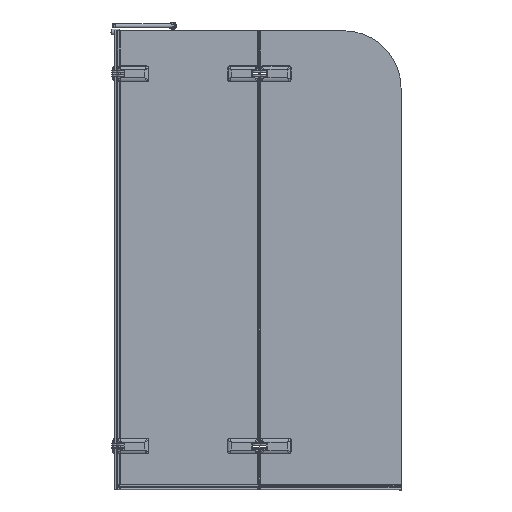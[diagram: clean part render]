
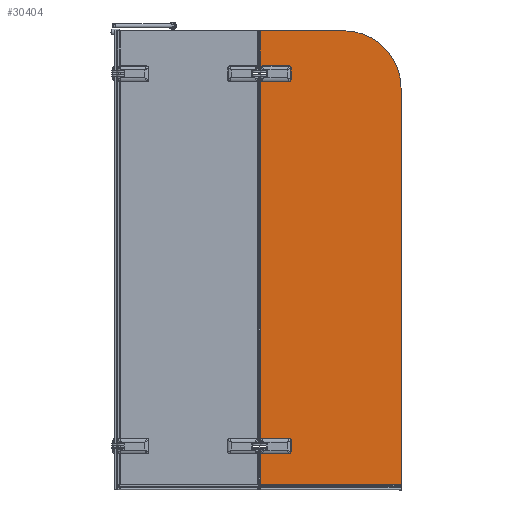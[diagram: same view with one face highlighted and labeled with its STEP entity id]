
A CAD part, front view. The second image highlights one B-rep face of the part: STEP entity #30404.
In plain terms, the highlighted planar face has unit normal (0, -1, 0).
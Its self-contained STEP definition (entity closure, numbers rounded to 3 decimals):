
#1670=CIRCLE($,#32733,5.);
#1674=CIRCLE($,#32742,5.);
#1675=CIRCLE($,#32743,5.);
#1676=CIRCLE($,#32744,5.);
#1677=CIRCLE($,#32745,5.);
#1678=CIRCLE($,#32746,200.);
#1679=CIRCLE($,#32747,5.);
#1680=CIRCLE($,#32748,5.);
#1681=CIRCLE($,#32749,5.);
#3068=FACE_OUTER_BOUND($,#4650,.T.);
#4650=EDGE_LOOP($,(#24165,#24166,#24167,#24168,#24169,#24170,#24171,#24172,
#24173,#24174,#24175,#24176,#24177,#24178,#24179,#24180,#24181,#24182,#24183,
#24184,#24185));
#6898=LINE($,#49764,#9901);
#7206=LINE($,#50932,#10209);
#7271=LINE($,#51149,#10274);
#7272=LINE($,#51153,#10275);
#7273=LINE($,#51157,#10276);
#7274=LINE($,#51161,#10277);
#7275=LINE($,#51163,#10278);
#7276=LINE($,#51165,#10279);
#7277=LINE($,#51168,#10280);
#7278=LINE($,#51172,#10281);
#7279=LINE($,#51176,#10282);
#7280=LINE($,#51179,#10283);
#9901=VECTOR($,#38175,290.747);
#10209=VECTOR($,#39043,1254.861);
#10274=VECTOR($,#39242,96.);
#10275=VECTOR($,#39245,42.);
#10276=VECTOR($,#39248,96.);
#10277=VECTOR($,#39251,112.83);
#10278=VECTOR($,#39252,490.747);
#10279=VECTOR($,#39253,1385.4);
#10280=VECTOR($,#39256,127.43);
#10281=VECTOR($,#39259,96.);
#10282=VECTOR($,#39262,42.);
#10283=VECTOR($,#39265,96.);
#12929=VERTEX_POINT($,#49761);
#12930=VERTEX_POINT($,#49763);
#13197=VERTEX_POINT($,#50924);
#13198=VERTEX_POINT($,#50931);
#13245=VERTEX_POINT($,#51114);
#13256=VERTEX_POINT($,#51146);
#13257=VERTEX_POINT($,#51148);
#13258=VERTEX_POINT($,#51150);
#13259=VERTEX_POINT($,#51152);
#13260=VERTEX_POINT($,#51154);
#13261=VERTEX_POINT($,#51156);
#13262=VERTEX_POINT($,#51158);
#13263=VERTEX_POINT($,#51160);
#13264=VERTEX_POINT($,#51162);
#13265=VERTEX_POINT($,#51164);
#13266=VERTEX_POINT($,#51167);
#13267=VERTEX_POINT($,#51169);
#13268=VERTEX_POINT($,#51171);
#13269=VERTEX_POINT($,#51173);
#13270=VERTEX_POINT($,#51175);
#13271=VERTEX_POINT($,#51177);
#16556=EDGE_CURVE($,#12930,#12929,#6898,.T.);
#16991=EDGE_CURVE($,#13197,#13198,#7206,.T.);
#17074=EDGE_CURVE($,#13198,#13245,#1670,.T.);
#17090=EDGE_CURVE($,#13256,#13197,#1674,.T.);
#17091=EDGE_CURVE($,#13257,#13256,#7271,.T.);
#17092=EDGE_CURVE($,#13258,#13257,#1675,.T.);
#17093=EDGE_CURVE($,#13259,#13258,#7272,.T.);
#17094=EDGE_CURVE($,#13260,#13259,#1676,.T.);
#17095=EDGE_CURVE($,#13261,#13260,#7273,.T.);
#17096=EDGE_CURVE($,#13262,#13261,#1677,.T.);
#17097=EDGE_CURVE($,#13263,#13262,#7274,.T.);
#17098=EDGE_CURVE($,#13264,#13263,#7275,.T.);
#17099=EDGE_CURVE($,#13264,#13265,#7276,.T.);
#17100=EDGE_CURVE($,#13265,#12930,#1678,.T.);
#17101=EDGE_CURVE($,#13266,#12929,#7277,.T.);
#17102=EDGE_CURVE($,#13267,#13266,#1679,.T.);
#17103=EDGE_CURVE($,#13268,#13267,#7278,.T.);
#17104=EDGE_CURVE($,#13269,#13268,#1680,.T.);
#17105=EDGE_CURVE($,#13270,#13269,#7279,.T.);
#17106=EDGE_CURVE($,#13271,#13270,#1681,.T.);
#17107=EDGE_CURVE($,#13245,#13271,#7280,.T.);
#24165=ORIENTED_EDGE($,*,*,#16991,.F.);
#24166=ORIENTED_EDGE($,*,*,#17090,.F.);
#24167=ORIENTED_EDGE($,*,*,#17091,.F.);
#24168=ORIENTED_EDGE($,*,*,#17092,.F.);
#24169=ORIENTED_EDGE($,*,*,#17093,.F.);
#24170=ORIENTED_EDGE($,*,*,#17094,.F.);
#24171=ORIENTED_EDGE($,*,*,#17095,.F.);
#24172=ORIENTED_EDGE($,*,*,#17096,.F.);
#24173=ORIENTED_EDGE($,*,*,#17097,.F.);
#24174=ORIENTED_EDGE($,*,*,#17098,.F.);
#24175=ORIENTED_EDGE($,*,*,#17099,.T.);
#24176=ORIENTED_EDGE($,*,*,#17100,.T.);
#24177=ORIENTED_EDGE($,*,*,#16556,.T.);
#24178=ORIENTED_EDGE($,*,*,#17101,.F.);
#24179=ORIENTED_EDGE($,*,*,#17102,.F.);
#24180=ORIENTED_EDGE($,*,*,#17103,.F.);
#24181=ORIENTED_EDGE($,*,*,#17104,.F.);
#24182=ORIENTED_EDGE($,*,*,#17105,.F.);
#24183=ORIENTED_EDGE($,*,*,#17106,.F.);
#24184=ORIENTED_EDGE($,*,*,#17107,.F.);
#24185=ORIENTED_EDGE($,*,*,#17074,.F.);
#27545=PLANE($,#32741);
#30404=ADVANCED_FACE($,(#3068),#27545,.F.);
#32733=AXIS2_PLACEMENT_3D($,#51115,#39210,#39211);
#32741=AXIS2_PLACEMENT_3D($,#51145,#39238,#39239);
#32742=AXIS2_PLACEMENT_3D($,#51147,#39240,#39241);
#32743=AXIS2_PLACEMENT_3D($,#51151,#39243,#39244);
#32744=AXIS2_PLACEMENT_3D($,#51155,#39246,#39247);
#32745=AXIS2_PLACEMENT_3D($,#51159,#39249,#39250);
#32746=AXIS2_PLACEMENT_3D($,#51166,#39254,#39255);
#32747=AXIS2_PLACEMENT_3D($,#51170,#39257,#39258);
#32748=AXIS2_PLACEMENT_3D($,#51174,#39260,#39261);
#32749=AXIS2_PLACEMENT_3D($,#51178,#39263,#39264);
#38175=DIRECTION($,(-1.,0.,0.));
#39043=DIRECTION($,(0.,0.,1.));
#39210=DIRECTION('center_axis',(0.,-1.,0.));
#39211=DIRECTION('ref_axis',(0.,0.,
1.));
#39238=DIRECTION('center_axis',(0.,1.,0.));
#39239=DIRECTION('ref_axis',(-1.,0.,0.));
#39240=DIRECTION('center_axis',(0.,-1.,0.));
#39241=DIRECTION('ref_axis',(1.,0.,0.));
#39242=DIRECTION($,(-1.,0.,0.));
#39243=DIRECTION('center_axis',(0.,-1.,0.));
#39244=DIRECTION('ref_axis',(0.,0.,
-1.));
#39245=DIRECTION($,(0.,0.,1.));
#39246=DIRECTION('center_axis',(0.,-1.,0.));
#39247=DIRECTION('ref_axis',(-1.,0.,0.));
#39248=DIRECTION($,(1.,0.,0.));
#39249=DIRECTION('center_axis',(0.,-1.,0.));
#39250=DIRECTION('ref_axis',(0.,0.,
1.));
#39251=DIRECTION($,(0.,0.,1.));
#39252=DIRECTION($,(-1.,0.,0.));
#39253=DIRECTION($,(0.,0.,1.));
#39254=DIRECTION('center_axis',(0.,-1.,0.));
#39255=DIRECTION('ref_axis',(0.707,0.,0.707));
#39256=DIRECTION($,(0.,0.,1.));
#39257=DIRECTION('center_axis',(0.,-1.,0.));
#39258=DIRECTION('ref_axis',(1.,0.,0.));
#39259=DIRECTION($,(-1.,0.,0.));
#39260=DIRECTION('center_axis',(0.,-1.,0.));
#39261=DIRECTION('ref_axis',(0.,0.,
-1.));
#39262=DIRECTION($,(0.,0.,1.));
#39263=DIRECTION('center_axis',(0.,-1.,0.));
#39264=DIRECTION('ref_axis',(-1.,0.,0.));
#39265=DIRECTION($,(1.,0.,0.));
#49761=CARTESIAN_POINT('',(2140.378,-33.722,1625.944));
#49763=CARTESIAN_POINT('',(2431.125,-33.722,1625.944));
#49764=CARTESIAN_POINT($,(2631.125,-33.722,1625.944));
#50924=CARTESIAN_POINT('',(2140.378,-33.722,198.514));
#50931=CARTESIAN_POINT('',(2140.378,-33.722,1453.375));
#50932=CARTESIAN_POINT($,(2140.378,-33.722,185.944));
#51114=CARTESIAN_POINT('',(2145.125,-33.722,1449.944));
#51115=CARTESIAN_POINT('Origin',(2145.125,-33.722,1454.944));
#51145=CARTESIAN_POINT('Origin',(2631.125,-33.722,35.944));
#51146=CARTESIAN_POINT('',(2145.125,-33.722,201.944));
#51147=CARTESIAN_POINT('Origin',(2145.125,-33.722,196.944));
#51148=CARTESIAN_POINT('',(2241.125,-33.722,201.944));
#51149=CARTESIAN_POINT($,(2388.125,-33.722,201.944));
#51150=CARTESIAN_POINT('',(2246.125,-33.722,196.944));
#51151=CARTESIAN_POINT('Origin',(2241.125,-33.722,196.944));
#51152=CARTESIAN_POINT('',(2246.125,-33.722,154.944));
#51153=CARTESIAN_POINT($,(2246.125,-33.722,116.444));
#51154=CARTESIAN_POINT('',(2241.125,-33.722,149.944));
#51155=CARTESIAN_POINT('Origin',(2241.125,-33.722,154.944));
#51156=CARTESIAN_POINT('',(2145.125,-33.722,149.944));
#51157=CARTESIAN_POINT($,(2436.125,-33.722,149.944));
#51158=CARTESIAN_POINT('',(2140.378,-33.722,153.375));
#51159=CARTESIAN_POINT('Origin',(2145.125,-33.722,154.944));
#51160=CARTESIAN_POINT('',(2140.378,-33.722,40.544));
#51161=CARTESIAN_POINT($,(2140.378,-33.722,165.944));
#51162=CARTESIAN_POINT('',(2631.125,-33.722,40.544));
#51163=CARTESIAN_POINT($,(2631.125,-33.722,40.544));
#51164=CARTESIAN_POINT('',(2631.125,-33.722,1425.944));
#51165=CARTESIAN_POINT($,(2631.125,-33.722,35.944));
#51166=CARTESIAN_POINT('Origin',(2431.125,-33.722,1425.944));
#51167=CARTESIAN_POINT('',(2140.378,-33.722,1498.514));
#51168=CARTESIAN_POINT($,(2140.378,-33.722,1485.944));
#51169=CARTESIAN_POINT('',(2145.125,-33.722,1501.944));
#51170=CARTESIAN_POINT('Origin',(2145.125,-33.722,1496.944));
#51171=CARTESIAN_POINT('',(2241.125,-33.722,1501.944));
#51172=CARTESIAN_POINT($,(2388.125,-33.722,1501.944));
#51173=CARTESIAN_POINT('',(2246.125,-33.722,1496.944));
#51174=CARTESIAN_POINT('Origin',(2241.125,-33.722,1496.944));
#51175=CARTESIAN_POINT('',(2246.125,-33.722,1454.944));
#51176=CARTESIAN_POINT($,(2246.125,-33.722,766.444));
#51177=CARTESIAN_POINT('',(2241.125,-33.722,1449.944));
#51178=CARTESIAN_POINT('Origin',(2241.125,-33.722,1454.944));
#51179=CARTESIAN_POINT($,(2436.125,-33.722,1449.944));
